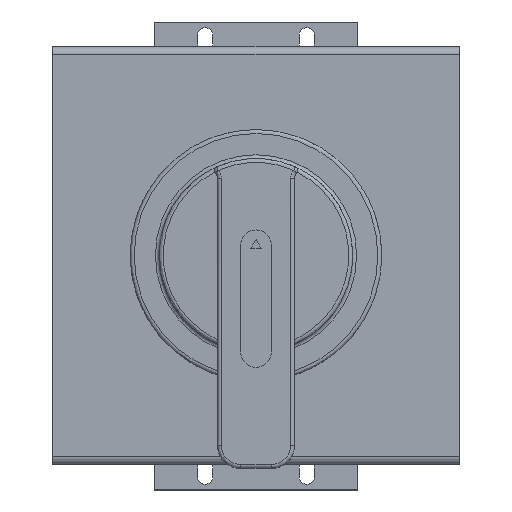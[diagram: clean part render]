
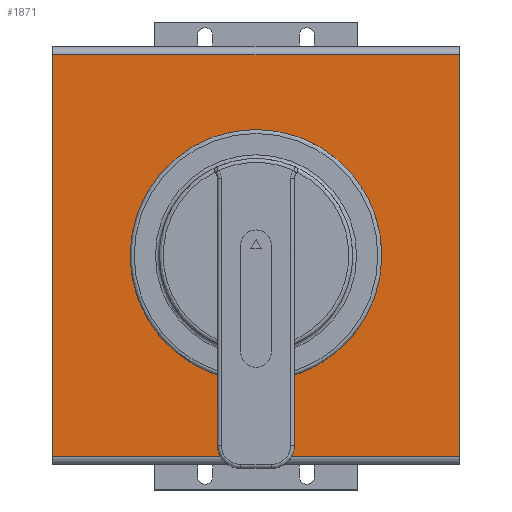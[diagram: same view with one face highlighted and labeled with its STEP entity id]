
A CAD part, top view. The second image highlights one B-rep face of the part: STEP entity #1871.
In plain terms, the highlighted planar face has unit normal (0, 0, 1).
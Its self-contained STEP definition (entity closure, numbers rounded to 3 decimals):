
#91=PLANE('',#2003);
#154=LINE('',#2696,#309);
#156=LINE('',#2702,#311);
#162=LINE('',#2724,#317);
#163=LINE('',#2725,#318);
#309=VECTOR('',#2182,10.);
#311=VECTOR('',#2188,10.);
#317=VECTOR('',#2206,10.);
#318=VECTOR('',#2207,10.);
#465=FACE_BOUND('',#607,.T.);
#489=FACE_OUTER_BOUND('',#606,.T.);
#606=EDGE_LOOP('',(#1302,#1303,#1304,#1305));
#607=EDGE_LOOP('',(#1306));
#740=CIRCLE('',#1992,5.);
#824=VERTEX_POINT('',#2687);
#827=VERTEX_POINT('',#2693);
#828=VERTEX_POINT('',#2695);
#830=VERTEX_POINT('',#2701);
#840=VERTEX_POINT('',#2723);
#1006=EDGE_CURVE('',#824,#824,#740,.T.);
#1009=EDGE_CURVE('',#827,#828,#154,.T.);
#1012=EDGE_CURVE('',#828,#830,#156,.T.);
#1023=EDGE_CURVE('',#827,#840,#162,.T.);
#1024=EDGE_CURVE('',#830,#840,#163,.T.);
#1302=ORIENTED_EDGE('',*,*,#1009,.F.);
#1303=ORIENTED_EDGE('',*,*,#1023,.T.);
#1304=ORIENTED_EDGE('',*,*,#1024,.F.);
#1305=ORIENTED_EDGE('',*,*,#1012,.F.);
#1306=ORIENTED_EDGE('',*,*,#1006,.T.);
#1871=ADVANCED_FACE('',(#489,#465),#91,.T.);
#1992=AXIS2_PLACEMENT_3D('',#2688,#2174,#2175);
#2003=AXIS2_PLACEMENT_3D('',#2722,#2204,#2205);
#2174=DIRECTION('center_axis',(0.,0.,-1.));
#2175=DIRECTION('ref_axis',(1.,0.,0.));
#2182=DIRECTION('',(1.,0.,0.));
#2188=DIRECTION('',(0.,-1.,0.));
#2204=DIRECTION('center_axis',(0.,0.,1.));
#2205=DIRECTION('ref_axis',(1.,0.,0.));
#2206=DIRECTION('',(0.,-1.,0.));
#2207=DIRECTION('',(-1.,0.,0.));
#2687=CARTESIAN_POINT('',(-5.,0.,50.));
#2688=CARTESIAN_POINT('Origin',(0.,0.,50.));
#2693=CARTESIAN_POINT('',(-52.5,52.,50.));
#2695=CARTESIAN_POINT('',(52.5,52.,50.));
#2696=CARTESIAN_POINT('',(26.25,52.,50.));
#2701=CARTESIAN_POINT('',(52.5,-52.,50.));
#2702=CARTESIAN_POINT('',(52.5,-54.,50.));
#2722=CARTESIAN_POINT('Origin',(0.,53.,50.));
#2723=CARTESIAN_POINT('',(-52.5,-52.,50.));
#2724=CARTESIAN_POINT('',(-52.5,52.,50.));
#2725=CARTESIAN_POINT('',(26.25,-52.,50.));
